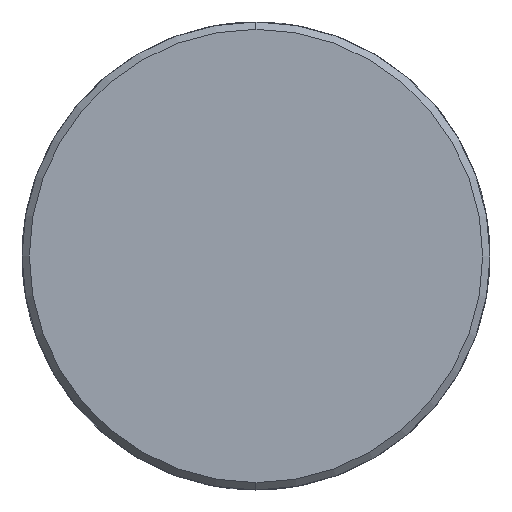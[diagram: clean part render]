
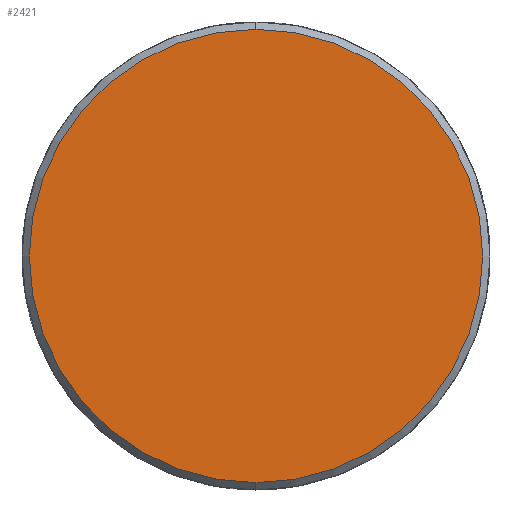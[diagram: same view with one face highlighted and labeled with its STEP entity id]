
A CAD part, left-side view. The second image highlights one B-rep face of the part: STEP entity #2421.
In plain terms, the highlighted planar face has unit normal (-1, 0, 0).
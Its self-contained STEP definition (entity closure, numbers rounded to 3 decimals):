
#130 = DIRECTION ( 'NONE',  ( 0., 0., 1. ) ) ;
#469 = CIRCLE ( 'NONE', #3673, 15.5 ) ;
#579 = CARTESIAN_POINT ( 'NONE',  ( 0., 0., 15.5 ) ) ;
#1401 = FACE_OUTER_BOUND ( 'NONE', #3446, .T. ) ;
#2176 = CIRCLE ( 'NONE', #4867, 15.5 ) ;
#2318 = EDGE_CURVE ( 'NONE', #3052, #5012, #469, .T. ) ;
#2411 = PLANE ( 'NONE',  #2591 ) ;
#2421 = ADVANCED_FACE ( 'NONE', ( #1401 ), #2411, .T. ) ;
#2591 = AXIS2_PLACEMENT_3D ( 'NONE', #5781, #2910, #130 ) ;
#2910 = DIRECTION ( 'NONE',  ( -1., 0., 0. ) ) ;
#2960 = ORIENTED_EDGE ( 'NONE', *, *, #2318, .F. ) ;
#2967 = ORIENTED_EDGE ( 'NONE', *, *, #3180, .F. ) ;
#3052 = VERTEX_POINT ( 'NONE', #3625 ) ;
#3180 = EDGE_CURVE ( 'NONE', #5012, #3052, #2176, .T. ) ;
#3266 = DIRECTION ( 'NONE',  ( 0., 0., -1. ) ) ;
#3280 = DIRECTION ( 'NONE',  ( 1., 0., 0. ) ) ;
#3286 = CARTESIAN_POINT ( 'NONE',  ( 0., 0., 0. ) ) ;
#3446 = EDGE_LOOP ( 'NONE', ( #2960, #2967 ) ) ;
#3496 = DIRECTION ( 'NONE',  ( 0., 0., -1. ) ) ;
#3498 = DIRECTION ( 'NONE',  ( 1., 0., 0. ) ) ;
#3501 = CARTESIAN_POINT ( 'NONE',  ( 0., 0., 0. ) ) ;
#3625 = CARTESIAN_POINT ( 'NONE',  ( 0., 0., -15.5 ) ) ;
#3673 = AXIS2_PLACEMENT_3D ( 'NONE', #3501, #3498, #3496 ) ;
#4867 = AXIS2_PLACEMENT_3D ( 'NONE', #3286, #3280, #3266 ) ;
#5012 = VERTEX_POINT ( 'NONE', #579 ) ;
#5781 = CARTESIAN_POINT ( 'NONE',  ( 0., 0., 0. ) ) ;
